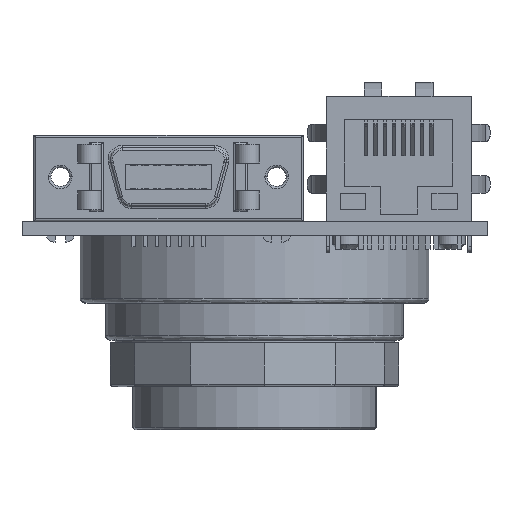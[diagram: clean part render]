
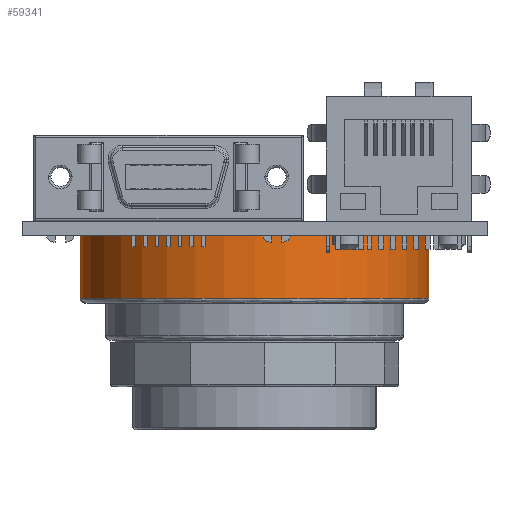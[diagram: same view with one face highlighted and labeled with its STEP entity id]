
A CAD part, front view. The second image highlights one B-rep face of the part: STEP entity #59341.
In plain terms, the highlighted cylindrical face has radius 19.05 mm (diameter 38.1 mm), a partial arc.
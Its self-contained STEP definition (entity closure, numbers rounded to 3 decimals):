
#1434 = ORIENTED_EDGE ( 'NONE', *, *, #12759, .T. ) ;
#2708 = ORIENTED_EDGE ( 'NONE', *, *, #35933, .F. ) ;
#5910 = DIRECTION ( 'NONE',  ( 0., 0., -1. ) ) ;
#6463 = ORIENTED_EDGE ( 'NONE', *, *, #18510, .T. ) ;
#6845 = CARTESIAN_POINT ( 'NONE',  ( -19.05, 0., 0. ) ) ;
#8222 = LINE ( 'NONE', #14407, #56921 ) ;
#8416 = DIRECTION ( 'NONE',  ( -1., 0., 0. ) ) ;
#8440 = VERTEX_POINT ( 'NONE', #51025 ) ;
#12247 = VECTOR ( 'NONE', #41689, 1000. ) ;
#12623 = CYLINDRICAL_SURFACE ( 'NONE', #30770, 19.05 ) ;
#12759 = EDGE_CURVE ( 'NONE', #21878, #8440, #28392, .T. ) ;
#14407 = CARTESIAN_POINT ( 'NONE',  ( -19.05, 0., 11.43 ) ) ;
#16028 = ORIENTED_EDGE ( 'NONE', *, *, #59627, .T. ) ;
#18510 = EDGE_CURVE ( 'NONE', #40641, #21878, #8222, .T. ) ;
#21399 = DIRECTION ( 'NONE',  ( 0., 0., 1. ) ) ;
#21878 = VERTEX_POINT ( 'NONE', #6845 ) ;
#22123 = AXIS2_PLACEMENT_3D ( 'NONE', #34107, #5910, #38844 ) ;
#22729 = CARTESIAN_POINT ( 'NONE',  ( 19.05, 0., 11.43 ) ) ;
#23720 = EDGE_LOOP ( 'NONE', ( #2708, #16028, #6463, #1434 ) ) ;
#27272 = CIRCLE ( 'NONE', #22123, 19.05 ) ;
#27321 = CARTESIAN_POINT ( 'NONE',  ( -19.05, 0., 6.858 ) ) ;
#28392 = CIRCLE ( 'NONE', #41481, 19.05 ) ;
#29560 = FACE_OUTER_BOUND ( 'NONE', #23720, .T. ) ;
#30770 = AXIS2_PLACEMENT_3D ( 'NONE', #40322, #45097, #8416 ) ;
#34107 = CARTESIAN_POINT ( 'NONE',  ( 0., 0., 6.858 ) ) ;
#35933 = EDGE_CURVE ( 'NONE', #52729, #8440, #38765, .T. ) ;
#38052 = DIRECTION ( 'NONE',  ( 0., 0., -1. ) ) ;
#38765 = LINE ( 'NONE', #22729, #12247 ) ;
#38844 = DIRECTION ( 'NONE',  ( -1., 0., 0. ) ) ;
#40322 = CARTESIAN_POINT ( 'NONE',  ( 0., 0., 11.43 ) ) ;
#40641 = VERTEX_POINT ( 'NONE', #27321 ) ;
#41481 = AXIS2_PLACEMENT_3D ( 'NONE', #49680, #21399, #54404 ) ;
#41689 = DIRECTION ( 'NONE',  ( 0., 0., -1. ) ) ;
#45097 = DIRECTION ( 'NONE',  ( 0., 0., -1. ) ) ;
#49680 = CARTESIAN_POINT ( 'NONE',  ( 0., 0., 0. ) ) ;
#51025 = CARTESIAN_POINT ( 'NONE',  ( 19.05, 0., 0. ) ) ;
#52729 = VERTEX_POINT ( 'NONE', #54886 ) ;
#54404 = DIRECTION ( 'NONE',  ( -1., 0., 0. ) ) ;
#54886 = CARTESIAN_POINT ( 'NONE',  ( 19.05, 0., 6.858 ) ) ;
#56921 = VECTOR ( 'NONE', #38052, 1000. ) ;
#59341 = ADVANCED_FACE ( 'NONE', ( #29560 ), #12623, .T. ) ;
#59627 = EDGE_CURVE ( 'NONE', #52729, #40641, #27272, .T. ) ;
